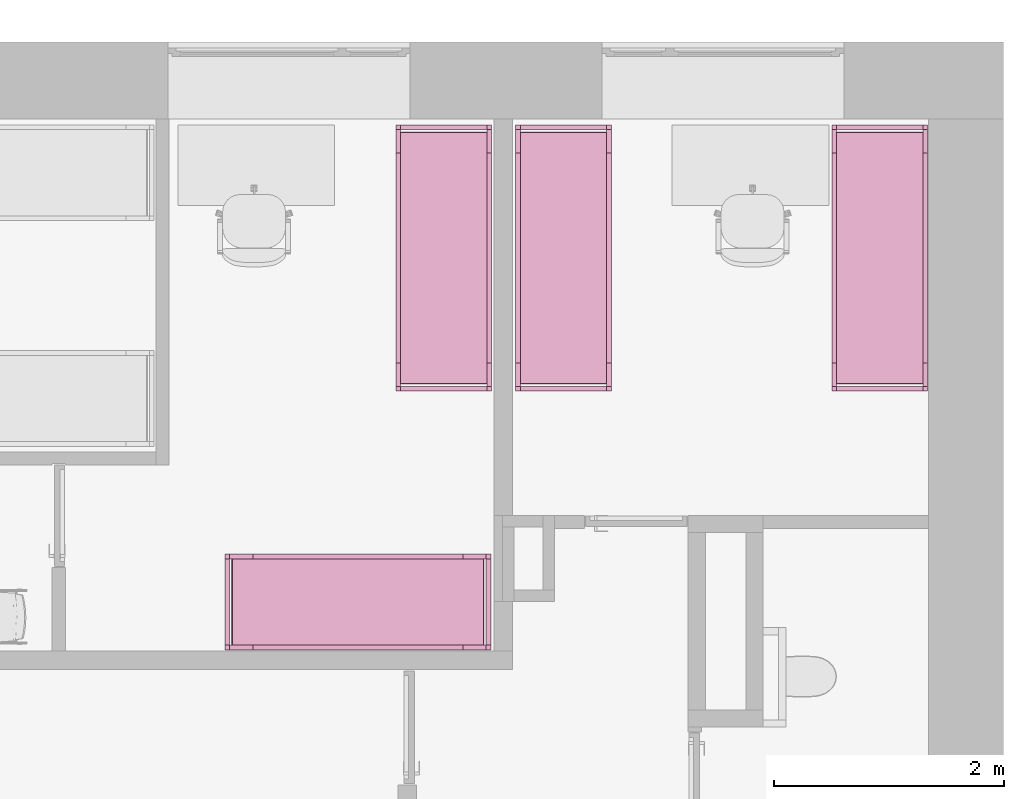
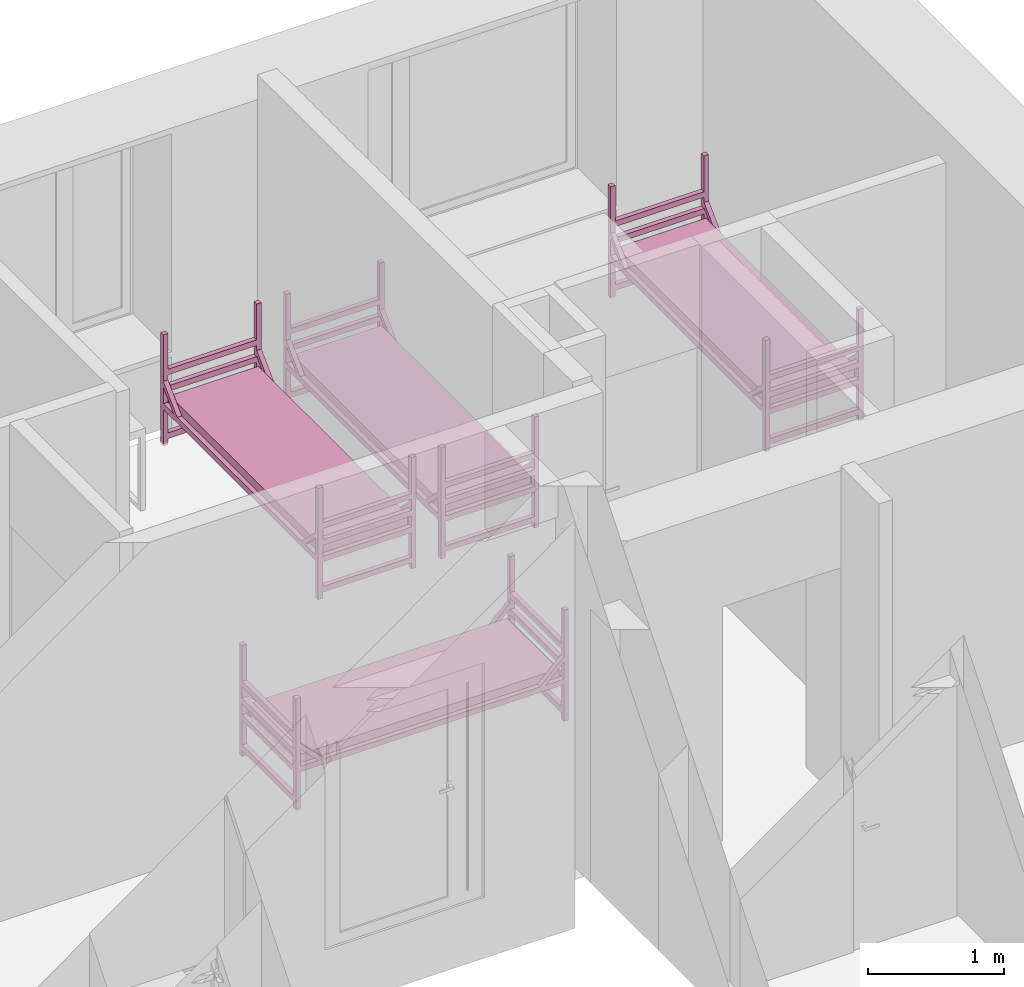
# One storey, part 46 of 48: 4 furnishings.
"""IFC2X3 building model written with IfcOpenShell, lengths in millimetres."""

from ifc_helpers import new_model, entity, si_unit, converted_unit, derived_unit, direction, frame, frame_2d, origin, origin_2d_with_axis, place, context, subcontext, project, spatial, polyline, circle_curve, parameter, trimmed, segment, composite_curve, rectangle, outline, extrude, source, transform, mapped, material, type_object, type_shapes, element, save


model = new_model("IFC2X3")

# Units and contexts
model_context = context("Model", 3, precision=0.01, world=origin(), true_north=direction((6.12303176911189e-17, 1.0)))
body_context = subcontext(model_context, "Body", "Model", "MODEL_VIEW")
ifc_project = project(units=[si_unit("LENGTHUNIT", "METRE", prefix="MILLI"), si_unit("AREAUNIT", "SQUARE_METRE"), si_unit("VOLUMEUNIT", "CUBIC_METRE"), converted_unit("PLANEANGLEUNIT", "DEGREE", entity("IfcRatioMeasure", 0.0174532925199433), si_unit("PLANEANGLEUNIT", "RADIAN"), dimensions=[0, 0, 0, 0, 0, 0, 0]), si_unit("MASSUNIT", "GRAM", prefix="KILO"), derived_unit("MASSDENSITYUNIT", [(si_unit("MASSUNIT", "GRAM", prefix="KILO"), 1), (si_unit("LENGTHUNIT", "METRE"), -3)]), si_unit("TIMEUNIT", "SECOND"), si_unit("FREQUENCYUNIT", "HERTZ"), si_unit("THERMODYNAMICTEMPERATUREUNIT", "DEGREE_CELSIUS"), derived_unit("THERMALTRANSMITTANCEUNIT", [(si_unit("MASSUNIT", "GRAM", prefix="KILO"), 1), (si_unit("THERMODYNAMICTEMPERATUREUNIT", "KELVIN"), -1), (si_unit("TIMEUNIT", "SECOND"), -3)]), derived_unit("VOLUMETRICFLOWRATEUNIT", [(si_unit("LENGTHUNIT", "METRE"), 3), (si_unit("TIMEUNIT", "SECOND"), -1)]), si_unit("ELECTRICCURRENTUNIT", "AMPERE"), si_unit("ELECTRICVOLTAGEUNIT", "VOLT"), si_unit("POWERUNIT", "WATT"), si_unit("FORCEUNIT", "NEWTON", prefix="KILO"), si_unit("ILLUMINANCEUNIT", "LUX"), si_unit("LUMINOUSFLUXUNIT", "LUMEN"), si_unit("LUMINOUSINTENSITYUNIT", "CANDELA"), derived_unit("USERDEFINED", [(si_unit("MASSUNIT", "GRAM", prefix="KILO"), -1), (si_unit("LENGTHUNIT", "METRE"), -2), (si_unit("TIMEUNIT", "SECOND"), 3), (si_unit("LUMINOUSFLUXUNIT", "LUMEN"), 1)]), derived_unit("LINEARVELOCITYUNIT", [(si_unit("LENGTHUNIT", "METRE"), 1), (si_unit("TIMEUNIT", "SECOND"), -1)]), si_unit("PRESSUREUNIT", "PASCAL"), derived_unit("USERDEFINED", [(si_unit("LENGTHUNIT", "METRE"), -2), (si_unit("MASSUNIT", "GRAM", prefix="KILO"), 1), (si_unit("TIMEUNIT", "SECOND"), -2)]), derived_unit("LINEARFORCEUNIT", [(si_unit("MASSUNIT", "GRAM", prefix="KILO"), 1), (si_unit("LENGTHUNIT", "METRE"), 1), (si_unit("TIMEUNIT", "SECOND"), -2), (si_unit("LENGTHUNIT", "METRE"), -1)]), derived_unit("PLANARFORCEUNIT", [(si_unit("MASSUNIT", "GRAM", prefix="KILO"), 1), (si_unit("LENGTHUNIT", "METRE"), 1), (si_unit("TIMEUNIT", "SECOND"), -2), (si_unit("LENGTHUNIT", "METRE"), -2)])], contexts=[model_context])

# Site, building, storey, space
site_placement = place(None, origin())
site = spatial("IfcSite", under=ifc_project, at=site_placement, Name="Default", CompositionType="ELEMENT")
building_placement = place(site_placement, origin())
building = spatial("IfcBuilding", under=site, at=building_placement, Name="SMA ARH", CompositionType="ELEMENT")
storey_placement = place(building_placement, frame((0.0, 0.0, 6600.0)))
storey = spatial("IfcBuildingStorey", under=building, at=storey_placement, Name="3 Korrus", CompositionType="ELEMENT", Elevation=6599.99999999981)
space_1_placement = place(storey_placement, origin())
space_1 = spatial("IfcSpace", under=storey, at=space_1_placement, Name="3-31/1", CompositionType="ELEMENT", InteriorOrExteriorSpace="INTERNAL")

# Furnishings
ifc_material = material(Name="Madrats")
furniture_type_1 = type_object("IfcFurnitureType", Name="Kasarmu voodi ühekordne 2308x830:Kasarmu voodi ühekordne 2308x830", material=ifc_material)
shared_shape_1 = source(origin(), body_context, "Body", "SweptSolid", [
    extrude(rectangle(XDim=39.9999999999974, YDim=750.000000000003, at=frame_2d((-1.35003119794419e-13, -2.8421709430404e-14), x_axis=(1.0, 0.0))), frame((1.68638457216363, -1226.7969571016, 55.0), z_axis=(0.0, 0.0, 1.0), x_axis=(0.0, -1.0, 0.0)), (0.0, 0.0, 1.0), 49.9999999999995),
    extrude(rectangle(XDim=39.9999999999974, YDim=750.000000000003, at=frame_2d((-1.35003119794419e-13, -2.8421709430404e-14), x_axis=(1.0, 0.0))), frame((1.68638457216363, -1226.7969571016, 325.0), z_axis=(0.0, 0.0, 1.0), x_axis=(0.0, -1.0, 0.0)), (0.0, 0.0, 1.0), 49.9999999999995),
    extrude(rectangle(XDim=39.9999999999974, YDim=750.000000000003, at=frame_2d((-1.35003119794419e-13, -2.8421709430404e-14), x_axis=(1.0, 0.0))), frame((1.68638457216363, -1226.7969571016, 475.0), z_axis=(0.0, 0.0, 1.0), x_axis=(0.0, -1.0, 0.0)), (0.0, 0.0, 1.0), 49.9999999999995),
    extrude(rectangle(XDim=39.9999999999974, YDim=750.000000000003, at=frame_2d((-1.35003119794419e-13, -2.8421709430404e-14), x_axis=(1.0, 0.0))), frame((1.68638457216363, -1226.7969571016, 625.0), z_axis=(0.0, 0.0, 1.0), x_axis=(0.0, -1.0, 0.0)), (0.0, 0.0, 1.0), 50.0000000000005),
    extrude(rectangle(XDim=39.9999999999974, YDim=750.000000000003, at=frame_2d((1.35003119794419e-13, -2.8421709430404e-14), x_axis=(1.0, 0.0))), frame((1.68638457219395, 1041.2030428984, 55.0), z_axis=(0.0, 0.0, 1.0), x_axis=(0.0, -1.0, 0.0)), (0.0, 0.0, 1.0), 50.0000000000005),
    extrude(rectangle(XDim=39.9999999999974, YDim=750.000000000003, at=frame_2d((1.35003119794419e-13, -2.8421709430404e-14), x_axis=(1.0, 0.0))), frame((1.68638457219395, 1041.2030428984, 325.0), z_axis=(0.0, 0.0, 1.0), x_axis=(0.0, -1.0, 0.0)), (0.0, 0.0, 1.0), 50.0000000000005),
    extrude(rectangle(XDim=39.9999999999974, YDim=750.000000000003, at=frame_2d((1.35003119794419e-13, -2.8421709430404e-14), x_axis=(1.0, 0.0))), frame((1.68638457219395, 1041.2030428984, 475.0), z_axis=(0.0, 0.0, 1.0), x_axis=(0.0, -1.0, 0.0)), (0.0, 0.0, 1.0), 50.0000000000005),
    extrude(rectangle(XDim=39.9999999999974, YDim=750.000000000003, at=frame_2d((1.35003119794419e-13, -2.8421709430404e-14), x_axis=(1.0, 0.0))), frame((1.68638457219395, 1041.2030428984, 625.0), z_axis=(0.0, 0.0, 1.0), x_axis=(0.0, -1.0, 0.0)), (0.0, 0.0, 1.0), 49.9999999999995),
    extrude(outline(composite_curve([segment(trimmed(circle_curve(frame_2d((1085.0, -40.0), x_axis=(1.0, 0.0)), 10.0), [parameter(270.0)], [parameter(0.0)], True, "PARAMETER"), True, "CONTINUOUS"), segment(polyline([(1095.0, -40.0), (1095.0, 40.0)]), True, "CONTINUOUS"), segment(trimmed(circle_curve(frame_2d((1085.0, 40.0), x_axis=(1.0, 0.0)), 10.0), [parameter(0.0)], [parameter(90.0000000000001)], True, "PARAMETER"), True, "CONTINUOUS"), segment(polyline([(1085.0, 50.0), (-1085.0, 50.0)]), True, "CONTINUOUS"), segment(trimmed(circle_curve(frame_2d((-1085.0, 40.0), x_axis=(1.0, 0.0)), 10.0), [parameter(90.0000000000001)], [parameter(180.0)], True, "PARAMETER"), True, "CONTINUOUS"), segment(polyline([(-1095.0, 40.0), (-1095.0, -40.0)]), True, "CONTINUOUS"), segment(trimmed(circle_curve(frame_2d((-1085.0, -40.0), x_axis=(1.0, 0.0)), 10.0), [parameter(180.0)], [parameter(270.0)], True, "PARAMETER"), True, "CONTINUOUS"), segment(polyline([(-1085.0, -50.0), (1085.0, -50.0)]), True, "CONTINUOUS")], self_intersect=False)), frame((-373.313615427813, -92.7969571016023, 405.0), z_axis=(1.0, 0.0, 0.0), x_axis=(0.0, -1.0, 0.0)), (0.0, 0.0, 1.0), 750.000000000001),
    extrude(outline(polyline([(-1114.0, -100.0), (1114.0, -100.0), (1114.0, -50.0), (961.59199141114, -50.0), (1114.0, 100.0), (1114.0, 150.0), (910.789321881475, -50.0), (-910.789321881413, -50.0), (-1114.0, 150.0), (-1114.0, 100.0), (-961.591991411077, -50.0), (-1114.0, -50.0), (-1114.0, -100.0)])), frame((-413.313615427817, -92.7969571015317, 430.0), z_axis=(1.0, 0.0, 0.0), x_axis=(0.0, 1.0, 0.0)), (0.0, 0.0, 1.0), 39.9999999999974),
    extrude(outline(polyline([(-1114.0, -100.0), (1114.0, -100.0), (1114.0, -50.0), (961.591991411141, -50.0), (1114.0, 100.0), (1114.0, 150.0), (910.789321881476, -50.0), (-910.789321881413, -50.0), (-1114.0, 150.0), (-1114.0, 100.0), (-961.591991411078, -50.0), (-1114.0, -50.0), (-1114.0, -100.0)])), frame((376.686384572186, -92.796957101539, 430.0), z_axis=(1.0, 0.0, 0.0), x_axis=(0.0, 1.0, 0.0)), (0.0, 0.0, 1.0), 39.9999999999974),
    extrude(rectangle(XDim=39.9999999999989, YDim=39.9999999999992, at=frame_2d((-6.75015598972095e-14, 0.0), x_axis=(1.0, 0.0))), frame((396.686384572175, -1226.79695710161, 0.0), z_axis=(0.0, 0.0, 1.0), x_axis=(0.0, 1.0, 0.0)), (0.0, 0.0, 1.0), 995.0),
    extrude(rectangle(XDim=39.9999999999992, YDim=39.9999999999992, at=frame_2d((-1.35003119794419e-13, 0.0), x_axis=(1.0, 0.0))), frame((396.686384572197, 1041.20304289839, 0.0), z_axis=(0.0, 0.0, 1.0), x_axis=(0.0, 1.0, 0.0)), (0.0, 0.0, 1.0), 995.0),
    extrude(rectangle(XDim=40.0000000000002, YDim=39.9999999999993, at=frame_2d((-1.35003119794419e-13, 0.0), x_axis=(1.0, 0.0))), frame((-393.313615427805, 1041.2030428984, 0.0), z_axis=(0.0, 0.0, 1.0), x_axis=(0.0, 1.0, 0.0)), (0.0, 0.0, 1.0), 995.0),
    extrude(rectangle(XDim=39.9999999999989, YDim=39.9999999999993, at=frame_2d((-6.75015598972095e-14, 0.0), x_axis=(1.0, 0.0))), frame((-393.313615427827, -1226.7969571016, 0.0), z_axis=(0.0, 0.0, 1.0), x_axis=(0.0, 1.0, 0.0)), (0.0, 0.0, 1.0), 995.0),
])
type_shapes(furniture_type_1, [shared_shape_1])
for number, where, z_axis, x_axis, name in (
    (1, (35149.7939213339, 11199.8894274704, 0.0), (0.0, 0.0, 1.0), (-1.0, 0.0, 0.0), "Kasarmu voodi ühekordne 2308x830:Kasarmu voodi ühekordne 2308x830"),
    (2, (37895.0, 11199.8894274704, 0.0), (0.0, 0.0, 1.0), (-1.0, 0.0, 0.0), "Kasarmu voodi ühekordne 2308x830:Kasarmu voodi ühekordne 2308x830"),
):
    element("IfcFurnishingElement", number, at=place(space_1_placement, frame(where, z_axis=z_axis, x_axis=x_axis)), inside=space_1, type_object=furniture_type_1, material=ifc_material, Name=name, ObjectType="Kasarmu voodi ühekordne 2308x830:Kasarmu voodi ühekordne 2308x830", context=body_context, shape_type="MappedRepresentation", body=[
        mapped(shared_shape_1, transform((0.0, 0.0, 0.0), scale=1.0)),
    ])

# Space
space_2_placement = place(storey_placement, origin())
space_2 = spatial("IfcSpace", under=storey, at=space_2_placement, Name="3-31", CompositionType="ELEMENT", InteriorOrExteriorSpace="INTERNAL")

# Furnishings
furnishing_1_placement = place(space_2_placement, frame((33270.0, 8305.5014052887, 0.0), z_axis=(0.0, 0.0, 1.0), x_axis=(0.0, 1.0, 0.0)))
element("IfcFurnishingElement", 3, at=furnishing_1_placement, inside=space_2, type_object=furniture_type_1, material=ifc_material, Name="Kasarmu voodi ühekordne 2308x830:Kasarmu voodi ühekordne 2308x830", ObjectType="Kasarmu voodi ühekordne 2308x830:Kasarmu voodi ühekordne 2308x830", context=body_context, shape_type="MappedRepresentation", body=[
    mapped(shared_shape_1, transform((0.0, 0.0, 0.0), scale=1.0)),
])
furniture_type_2 = type_object("IfcFurnitureType", Name="Kasarmu voodi ühekordne 2308x830:Kasarmu voodi ühekordne 2308x830", material=ifc_material)
shared_shape_2 = source(origin(), body_context, "Body", "SweptSolid", [
    extrude(rectangle(XDim=750.000000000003, YDim=39.9999999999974, at=frame_2d((0.0, 1.35003119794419e-13), x_axis=(1.0, 0.0))), frame((1.68638457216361, 1226.7969571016, 55.0)), (0.0, 0.0, 1.0), 49.9999999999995),
    extrude(rectangle(XDim=750.000000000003, YDim=39.9999999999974, at=frame_2d((0.0, 1.35003119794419e-13), x_axis=(1.0, 0.0))), frame((1.68638457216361, 1226.7969571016, 325.0)), (0.0, 0.0, 1.0), 49.9999999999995),
    extrude(rectangle(XDim=750.000000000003, YDim=39.9999999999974, at=frame_2d((0.0, 1.35003119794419e-13), x_axis=(1.0, 0.0))), frame((1.68638457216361, 1226.7969571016, 475.0)), (0.0, 0.0, 1.0), 49.9999999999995),
    extrude(rectangle(XDim=750.000000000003, YDim=39.9999999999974, at=frame_2d((0.0, 1.35003119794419e-13), x_axis=(1.0, 0.0))), frame((1.68638457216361, 1226.7969571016, 625.0)), (0.0, 0.0, 1.0), 50.0000000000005),
    extrude(rectangle(XDim=750.000000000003, YDim=39.9999999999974, at=origin_2d_with_axis()), frame((1.68638457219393, -1041.2030428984, 55.0)), (0.0, 0.0, 1.0), 50.0000000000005),
    extrude(rectangle(XDim=750.000000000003, YDim=39.9999999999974, at=origin_2d_with_axis()), frame((1.68638457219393, -1041.2030428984, 325.0)), (0.0, 0.0, 1.0), 50.0000000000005),
    extrude(rectangle(XDim=750.000000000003, YDim=39.9999999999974, at=origin_2d_with_axis()), frame((1.68638457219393, -1041.2030428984, 475.0)), (0.0, 0.0, 1.0), 50.0000000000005),
    extrude(rectangle(XDim=750.000000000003, YDim=39.9999999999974, at=origin_2d_with_axis()), frame((1.68638457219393, -1041.2030428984, 625.0)), (0.0, 0.0, 1.0), 49.9999999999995),
    extrude(outline(composite_curve([segment(polyline([(-1085.0, -50.0), (1085.0, -50.0)]), True, "CONTINUOUS"), segment(trimmed(circle_curve(frame_2d((1085.0, -40.0), x_axis=(-1.0, 0.0)), 10.0), [parameter(90.0000000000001)], [parameter(180.0)], True, "PARAMETER"), True, "CONTINUOUS"), segment(polyline([(1095.0, -40.0), (1095.0, 40.0)]), True, "CONTINUOUS"), segment(trimmed(circle_curve(frame_2d((1085.0, 40.0), x_axis=(-1.0, 0.0)), 10.0), [parameter(180.0)], [parameter(270.0)], True, "PARAMETER"), True, "CONTINUOUS"), segment(polyline([(1085.0, 50.0), (-1085.0, 50.0)]), True, "CONTINUOUS"), segment(trimmed(circle_curve(frame_2d((-1085.0, 40.0), x_axis=(-1.0, 0.0)), 10.0), [parameter(270.0)], [parameter(0.0)], True, "PARAMETER"), True, "CONTINUOUS"), segment(polyline([(-1095.0, 40.0), (-1095.0, -40.0)]), True, "CONTINUOUS"), segment(trimmed(circle_curve(frame_2d((-1085.0, -40.0), x_axis=(-1.0, 0.0)), 10.0), [parameter(0.0)], [parameter(90.0000000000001)], True, "PARAMETER"), True, "CONTINUOUS")], self_intersect=False)), frame((-373.313615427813, 92.7969571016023, 405.0), z_axis=(1.0, 0.0, 0.0), x_axis=(0.0, -1.0, 0.0)), (0.0, 0.0, 1.0), 750.000000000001),
    extrude(outline(polyline([(-100.0, -1114.0), (-50.0, -1114.0), (-50.0, -961.591991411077), (100.0, -1114.0), (150.0, -1114.0), (-50.0, -910.789321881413), (-50.0, 910.789321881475), (150.0, 1114.0), (100.0, 1114.0), (-50.0, 961.591991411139), (-50.0, 1114.0), (-100.0, 1114.0), (-100.0, -1114.0)])), frame((-413.313615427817, 92.7969571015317, 430.0), z_axis=(1.0, 0.0, 0.0), x_axis=(0.0, 0.0, 1.0)), (0.0, 0.0, 1.0), 39.9999999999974),
    extrude(outline(polyline([(-100.0, -1114.0), (-50.0, -1114.0), (-50.0, -961.591991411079), (100.0, -1114.0), (150.0, -1114.0), (-50.0, -910.789321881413), (-50.0, 910.789321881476), (150.0, 1114.0), (100.0, 1114.0), (-50.0, 961.591991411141), (-50.0, 1114.0), (-100.0, 1114.0), (-100.0, -1114.0)])), frame((376.686384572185, 92.796957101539, 430.0), z_axis=(1.0, 0.0, 0.0), x_axis=(0.0, 0.0, 1.0)), (0.0, 0.0, 1.0), 39.9999999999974),
    extrude(rectangle(XDim=39.9999999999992, YDim=39.9999999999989, at=frame_2d((0.0, -6.75015598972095e-14), x_axis=(1.0, 0.0))), frame((396.686384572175, 1226.79695710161, 0.0), z_axis=(0.0, 0.0, 1.0), x_axis=(-1.0, 0.0, 0.0)), (0.0, 0.0, 1.0), 995.0),
    extrude(rectangle(XDim=39.9999999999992, YDim=39.9999999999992, at=origin_2d_with_axis()), frame((396.686384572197, -1041.20304289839, 0.0), z_axis=(0.0, 0.0, 1.0), x_axis=(-1.0, 0.0, 0.0)), (0.0, 0.0, 1.0), 995.0),
    extrude(rectangle(XDim=39.9999999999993, YDim=40.0000000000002, at=origin_2d_with_axis()), frame((-393.313615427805, -1041.2030428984, 0.0), z_axis=(0.0, 0.0, 1.0), x_axis=(-1.0, 0.0, 0.0)), (0.0, 0.0, 1.0), 995.0),
    extrude(rectangle(XDim=39.9999999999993, YDim=39.9999999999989, at=frame_2d((0.0, -6.75015598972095e-14), x_axis=(1.0, 0.0))), frame((-393.313615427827, 1226.7969571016, 0.0), z_axis=(0.0, 0.0, 1.0), x_axis=(-1.0, 0.0, 0.0)), (0.0, 0.0, 1.0), 995.0),
])
type_shapes(furniture_type_2, [shared_shape_2])
furnishing_2_placement = place(space_2_placement, frame((34106.2060786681, 11199.8894274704, 0.0)))
element("IfcFurnishingElement", 4, at=furnishing_2_placement, inside=space_2, type_object=furniture_type_2, material=ifc_material, Name="Kasarmu voodi ühekordne 2308x830:Kasarmu voodi ühekordne 2308x830", ObjectType="Kasarmu voodi ühekordne 2308x830:Kasarmu voodi ühekordne 2308x830", context=body_context, shape_type="MappedRepresentation", body=[
    mapped(shared_shape_2, transform((0.0, 0.0, 0.0), scale=1.0)),
])

save(model, "model.ifc")
